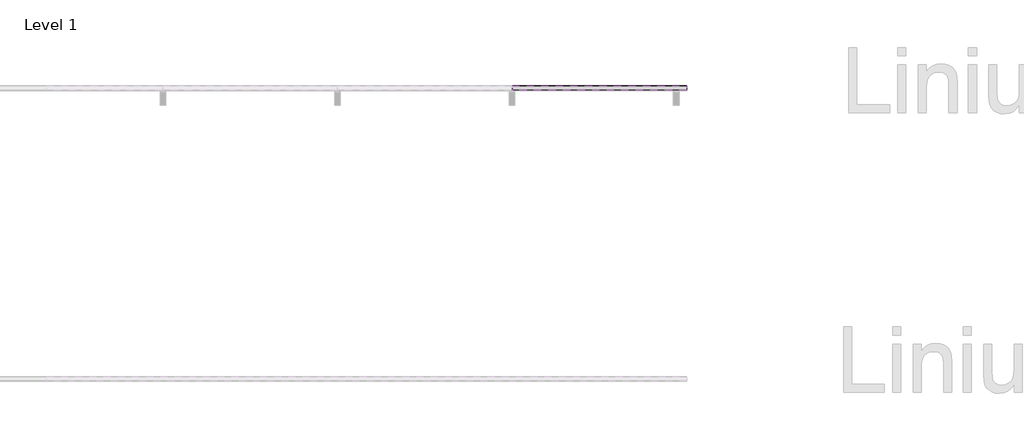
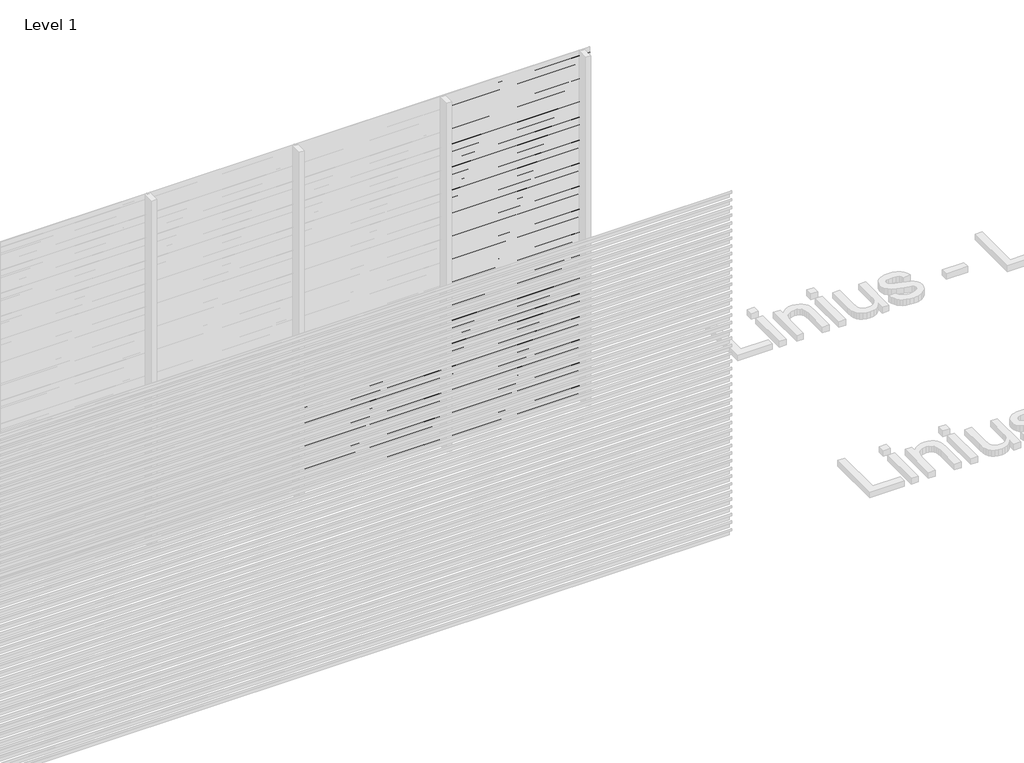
# One storey, part 65 of 540: 56 proxies.
"""IFC4 building model written with IfcOpenShell, lengths in millimetres."""

from ifc_helpers import new_model, si_unit, frame, origin, place, context, project, spatial, polyline, outline, extrude, element, save

model = new_model("IFC4")

# Units and contexts
model_context = context("Model", 3, world=origin())
ifc_project = project(units=[si_unit("LENGTHUNIT", "METRE", prefix="MILLI")], contexts=[model_context])

# Site, building, storey
site = spatial("IfcSite", under=ifc_project)
building = spatial("IfcBuilding", under=site)
storey = spatial("IfcBuildingStorey", under=building, Name="Level 1", Elevation=0.0)

# Proxies
placement = place(None, origin())
element("IfcBuildingElementProxy", 1, Name="Wall Sweeps", at=placement, inside=storey, context=model_context, shape_type="SweptSolid", body=[
    extrude(outline(polyline([(29014.0540136, 686.0), (29014.0540136, 653.0), (29012.8040136, 653.7216933), (29012.8040136, 685.2872415), (28983.0540136, 706.0588647), (28983.0540136, 726.0), (28984.3040136, 726.0), (28984.3040136, 706.7716232), (29014.0540136, 686.0)])), frame((48566.6208097, 0.0, 0.0), z_axis=(1.0, 0.0, 0.0), x_axis=(0.0, 1.0, 0.0)), (0.0, 0.0, 1.0), 1200.0),
])
element("IfcBuildingElementProxy", 2, Name="Wall Sweeps", at=placement, inside=storey, context=model_context, shape_type="SweptSolid", body=[
    extrude(outline(polyline([(29014.0540136, 620.0), (29014.0540136, 587.0), (29012.8040136, 587.7216933), (29012.8040136, 619.2872415), (28983.0540136, 640.0588647), (28983.0540136, 660.0), (28984.3040136, 660.0), (28984.3040136, 640.7716232), (29014.0540136, 620.0)])), frame((48566.6208097, 0.0, 0.0), z_axis=(1.0, 0.0, 0.0), x_axis=(0.0, 1.0, 0.0)), (0.0, 0.0, 1.0), 1200.0),
])
element("IfcBuildingElementProxy", 3, Name="Wall Sweeps", at=placement, inside=storey, context=model_context, shape_type="SweptSolid", body=[
    extrude(outline(polyline([(29014.0540136, 554.0), (29014.0540136, 521.0), (29012.8040136, 521.7216933), (29012.8040136, 553.2872415), (28983.0540136, 574.0588647), (28983.0540136, 594.0), (28984.3040136, 594.0), (28984.3040136, 574.7716232), (29014.0540136, 554.0)])), frame((48566.6208097, 0.0, 0.0), z_axis=(1.0, 0.0, 0.0), x_axis=(0.0, 1.0, 0.0)), (0.0, 0.0, 1.0), 1200.0),
])
element("IfcBuildingElementProxy", 4, Name="Wall Sweeps", at=placement, inside=storey, context=model_context, shape_type="SweptSolid", body=[
    extrude(outline(polyline([(29014.0540136, 488.0), (29014.0540136, 455.0), (29012.8040136, 455.7216933), (29012.8040136, 487.2872415), (28983.0540136, 508.0588647), (28983.0540136, 528.0), (28984.3040136, 528.0), (28984.3040136, 508.7716232), (29014.0540136, 488.0)])), frame((48566.6208097, 0.0, 0.0), z_axis=(1.0, 0.0, 0.0), x_axis=(0.0, 1.0, 0.0)), (0.0, 0.0, 1.0), 1200.0),
])
element("IfcBuildingElementProxy", 5, Name="Wall Sweeps", at=placement, inside=storey, context=model_context, shape_type="SweptSolid", body=[
    extrude(outline(polyline([(29014.0540136, 422.0), (29014.0540136, 389.0), (29012.8040136, 389.7216933), (29012.8040136, 421.2872415), (28983.0540136, 442.0588647), (28983.0540136, 462.0), (28984.3040136, 462.0), (28984.3040136, 442.7716232), (29014.0540136, 422.0)])), frame((48566.6208097, 0.0, 0.0), z_axis=(1.0, 0.0, 0.0), x_axis=(0.0, 1.0, 0.0)), (0.0, 0.0, 1.0), 1200.0),
])
element("IfcBuildingElementProxy", 6, Name="Wall Sweeps", at=placement, inside=storey, context=model_context, shape_type="SweptSolid", body=[
    extrude(outline(polyline([(29014.0540136, 356.0), (29014.0540136, 323.0), (29012.8040136, 323.7216933), (29012.8040136, 355.2872415), (28983.0540136, 376.0588647), (28983.0540136, 396.0), (28984.3040136, 396.0), (28984.3040136, 376.7716232), (29014.0540136, 356.0)])), frame((48566.6208097, 0.0, 0.0), z_axis=(1.0, 0.0, 0.0), x_axis=(0.0, 1.0, 0.0)), (0.0, 0.0, 1.0), 1200.0),
])
element("IfcBuildingElementProxy", 7, Name="Wall Sweeps", at=placement, inside=storey, context=model_context, shape_type="SweptSolid", body=[
    extrude(outline(polyline([(29014.0540136, 290.0), (29014.0540136, 257.0), (29012.8040136, 257.7216933), (29012.8040136, 289.2872415), (28983.0540136, 310.0588647), (28983.0540136, 330.0), (28984.3040136, 330.0), (28984.3040136, 310.7716232), (29014.0540136, 290.0)])), frame((48566.6208097, 0.0, 0.0), z_axis=(1.0, 0.0, 0.0), x_axis=(0.0, 1.0, 0.0)), (0.0, 0.0, 1.0), 1200.0),
])
element("IfcBuildingElementProxy", 8, Name="Wall Sweeps", at=placement, inside=storey, context=model_context, shape_type="SweptSolid", body=[
    extrude(outline(polyline([(29014.0540136, 224.0), (29014.0540136, 191.0), (29012.8040136, 191.7216933), (29012.8040136, 223.2872415), (28983.0540136, 244.0588647), (28983.0540136, 264.0), (28984.3040136, 264.0), (28984.3040136, 244.7716232), (29014.0540136, 224.0)])), frame((48566.6208097, 0.0, 0.0), z_axis=(1.0, 0.0, 0.0), x_axis=(0.0, 1.0, 0.0)), (0.0, 0.0, 1.0), 1200.0),
])
element("IfcBuildingElementProxy", 9, Name="Wall Sweeps", at=placement, inside=storey, context=model_context, shape_type="SweptSolid", body=[
    extrude(outline(polyline([(29014.0540136, 158.0), (29014.0540136, 125.0), (29012.8040136, 125.7216933), (29012.8040136, 157.2872415), (28983.0540136, 178.0588647), (28983.0540136, 198.0), (28984.3040136, 198.0), (28984.3040136, 178.7716232), (29014.0540136, 158.0)])), frame((48566.6208097, 0.0, 0.0), z_axis=(1.0, 0.0, 0.0), x_axis=(0.0, 1.0, 0.0)), (0.0, 0.0, 1.0), 1200.0),
])
element("IfcBuildingElementProxy", 10, Name="Wall Sweeps", at=placement, inside=storey, context=model_context, shape_type="SweptSolid", body=[
    extrude(outline(polyline([(29014.0540136, 92.0), (29014.0540136, 59.0), (29012.8040136, 59.7216933), (29012.8040136, 91.2872415), (28983.0540136, 112.0588647), (28983.0540136, 132.0), (28984.3040136, 132.0), (28984.3040136, 112.7716232), (29014.0540136, 92.0)])), frame((48566.6208097, 0.0, 0.0), z_axis=(1.0, 0.0, 0.0), x_axis=(0.0, 1.0, 0.0)), (0.0, 0.0, 1.0), 1200.0),
])
element("IfcBuildingElementProxy", 11, Name="Wall Sweeps", at=placement, inside=storey, context=model_context, shape_type="SweptSolid", body=[
    extrude(outline(polyline([(29014.0540136, 26.0), (29014.0540136, -7.0), (29012.8040136, -6.2783067), (29012.8040136, 25.2872415), (28983.0540136, 46.0588647), (28983.0540136, 66.0), (28984.3040136, 66.0), (28984.3040136, 46.7716232), (29014.0540136, 26.0)])), frame((48566.6208097, 0.0, 0.0), z_axis=(1.0, 0.0, 0.0), x_axis=(0.0, 1.0, 0.0)), (0.0, 0.0, 1.0), 1200.0),
])
element("IfcBuildingElementProxy", 12, Name="Wall Sweeps", at=placement, inside=storey, context=model_context, shape_type="SweptSolid", body=[
    extrude(outline(polyline([(29014.0540136, 2930.0), (29014.0540136, 2897.0), (29012.8040136, 2897.7216933), (29012.8040136, 2929.2872415), (28983.0540136, 2950.0588647), (28983.0540136, 2970.0), (28984.3040136, 2970.0), (28984.3040136, 2950.7716232), (29014.0540136, 2930.0)])), frame((49766.6208097, 0.0, 0.0), z_axis=(1.0, 0.0, 0.0), x_axis=(0.0, 1.0, 0.0)), (0.0, 0.0, 1.0), 1200.0),
])
element("IfcBuildingElementProxy", 13, Name="Wall Sweeps", at=placement, inside=storey, context=model_context, shape_type="SweptSolid", body=[
    extrude(outline(polyline([(29014.0540136, 2864.0), (29014.0540136, 2831.0), (29012.8040136, 2831.7216933), (29012.8040136, 2863.2872415), (28983.0540136, 2884.0588647), (28983.0540136, 2904.0), (28984.3040136, 2904.0), (28984.3040136, 2884.7716232), (29014.0540136, 2864.0)])), frame((49766.6208097, 0.0, 0.0), z_axis=(1.0, 0.0, 0.0), x_axis=(0.0, 1.0, 0.0)), (0.0, 0.0, 1.0), 1200.0),
])
element("IfcBuildingElementProxy", 14, Name="Wall Sweeps", at=placement, inside=storey, context=model_context, shape_type="SweptSolid", body=[
    extrude(outline(polyline([(29014.0540136, 2798.0), (29014.0540136, 2765.0), (29012.8040136, 2765.7216933), (29012.8040136, 2797.2872415), (28983.0540136, 2818.0588647), (28983.0540136, 2838.0), (28984.3040136, 2838.0), (28984.3040136, 2818.7716232), (29014.0540136, 2798.0)])), frame((49766.6208097, 0.0, 0.0), z_axis=(1.0, 0.0, 0.0), x_axis=(0.0, 1.0, 0.0)), (0.0, 0.0, 1.0), 1200.0),
])
element("IfcBuildingElementProxy", 15, Name="Wall Sweeps", at=placement, inside=storey, context=model_context, shape_type="SweptSolid", body=[
    extrude(outline(polyline([(29014.0540136, 2732.0), (29014.0540136, 2699.0), (29012.8040136, 2699.7216933), (29012.8040136, 2731.2872415), (28983.0540136, 2752.0588647), (28983.0540136, 2772.0), (28984.3040136, 2772.0), (28984.3040136, 2752.7716232), (29014.0540136, 2732.0)])), frame((49766.6208097, 0.0, 0.0), z_axis=(1.0, 0.0, 0.0), x_axis=(0.0, 1.0, 0.0)), (0.0, 0.0, 1.0), 1200.0),
])
element("IfcBuildingElementProxy", 16, Name="Wall Sweeps", at=placement, inside=storey, context=model_context, shape_type="SweptSolid", body=[
    extrude(outline(polyline([(29014.0540136, 2666.0), (29014.0540136, 2633.0), (29012.8040136, 2633.7216933), (29012.8040136, 2665.2872415), (28983.0540136, 2686.0588647), (28983.0540136, 2706.0), (28984.3040136, 2706.0), (28984.3040136, 2686.7716232), (29014.0540136, 2666.0)])), frame((49766.6208097, 0.0, 0.0), z_axis=(1.0, 0.0, 0.0), x_axis=(0.0, 1.0, 0.0)), (0.0, 0.0, 1.0), 1200.0),
])
element("IfcBuildingElementProxy", 17, Name="Wall Sweeps", at=placement, inside=storey, context=model_context, shape_type="SweptSolid", body=[
    extrude(outline(polyline([(29014.0540136, 2600.0), (29014.0540136, 2567.0), (29012.8040136, 2567.7216933), (29012.8040136, 2599.2872415), (28983.0540136, 2620.0588647), (28983.0540136, 2640.0), (28984.3040136, 2640.0), (28984.3040136, 2620.7716232), (29014.0540136, 2600.0)])), frame((49766.6208097, 0.0, 0.0), z_axis=(1.0, 0.0, 0.0), x_axis=(0.0, 1.0, 0.0)), (0.0, 0.0, 1.0), 1200.0),
])
element("IfcBuildingElementProxy", 18, Name="Wall Sweeps", at=placement, inside=storey, context=model_context, shape_type="SweptSolid", body=[
    extrude(outline(polyline([(29014.0540136, 2534.0), (29014.0540136, 2501.0), (29012.8040136, 2501.7216933), (29012.8040136, 2533.2872415), (28983.0540136, 2554.0588647), (28983.0540136, 2574.0), (28984.3040136, 2574.0), (28984.3040136, 2554.7716232), (29014.0540136, 2534.0)])), frame((49766.6208097, 0.0, 0.0), z_axis=(1.0, 0.0, 0.0), x_axis=(0.0, 1.0, 0.0)), (0.0, 0.0, 1.0), 1200.0),
])
element("IfcBuildingElementProxy", 19, Name="Wall Sweeps", at=placement, inside=storey, context=model_context, shape_type="SweptSolid", body=[
    extrude(outline(polyline([(29014.0540136, 2468.0), (29014.0540136, 2435.0), (29012.8040136, 2435.7216933), (29012.8040136, 2467.2872415), (28983.0540136, 2488.0588647), (28983.0540136, 2508.0), (28984.3040136, 2508.0), (28984.3040136, 2488.7716232), (29014.0540136, 2468.0)])), frame((49766.6208097, 0.0, 0.0), z_axis=(1.0, 0.0, 0.0), x_axis=(0.0, 1.0, 0.0)), (0.0, 0.0, 1.0), 1200.0),
])
element("IfcBuildingElementProxy", 20, Name="Wall Sweeps", at=placement, inside=storey, context=model_context, shape_type="SweptSolid", body=[
    extrude(outline(polyline([(29014.0540136, 2402.0), (29014.0540136, 2369.0), (29012.8040136, 2369.7216933), (29012.8040136, 2401.2872415), (28983.0540136, 2422.0588647), (28983.0540136, 2442.0), (28984.3040136, 2442.0), (28984.3040136, 2422.7716232), (29014.0540136, 2402.0)])), frame((49766.6208097, 0.0, 0.0), z_axis=(1.0, 0.0, 0.0), x_axis=(0.0, 1.0, 0.0)), (0.0, 0.0, 1.0), 1200.0),
])
element("IfcBuildingElementProxy", 21, Name="Wall Sweeps", at=placement, inside=storey, context=model_context, shape_type="SweptSolid", body=[
    extrude(outline(polyline([(29014.0540136, 2336.0), (29014.0540136, 2303.0), (29012.8040136, 2303.7216933), (29012.8040136, 2335.2872415), (28983.0540136, 2356.0588647), (28983.0540136, 2376.0), (28984.3040136, 2376.0), (28984.3040136, 2356.7716232), (29014.0540136, 2336.0)])), frame((49766.6208097, 0.0, 0.0), z_axis=(1.0, 0.0, 0.0), x_axis=(0.0, 1.0, 0.0)), (0.0, 0.0, 1.0), 1200.0),
])
element("IfcBuildingElementProxy", 22, Name="Wall Sweeps", at=placement, inside=storey, context=model_context, shape_type="SweptSolid", body=[
    extrude(outline(polyline([(29014.0540136, 2270.0), (29014.0540136, 2237.0), (29012.8040136, 2237.7216933), (29012.8040136, 2269.2872415), (28983.0540136, 2290.0588647), (28983.0540136, 2310.0), (28984.3040136, 2310.0), (28984.3040136, 2290.7716232), (29014.0540136, 2270.0)])), frame((49766.6208097, 0.0, 0.0), z_axis=(1.0, 0.0, 0.0), x_axis=(0.0, 1.0, 0.0)), (0.0, 0.0, 1.0), 1200.0),
])
element("IfcBuildingElementProxy", 23, Name="Wall Sweeps", at=placement, inside=storey, context=model_context, shape_type="SweptSolid", body=[
    extrude(outline(polyline([(29014.0540136, 2204.0), (29014.0540136, 2171.0), (29012.8040136, 2171.7216933), (29012.8040136, 2203.2872415), (28983.0540136, 2224.0588647), (28983.0540136, 2244.0), (28984.3040136, 2244.0), (28984.3040136, 2224.7716232), (29014.0540136, 2204.0)])), frame((49766.6208097, 0.0, 0.0), z_axis=(1.0, 0.0, 0.0), x_axis=(0.0, 1.0, 0.0)), (0.0, 0.0, 1.0), 1200.0),
])
element("IfcBuildingElementProxy", 24, Name="Wall Sweeps", at=placement, inside=storey, context=model_context, shape_type="SweptSolid", body=[
    extrude(outline(polyline([(29014.0540136, 2138.0), (29014.0540136, 2105.0), (29012.8040136, 2105.7216933), (29012.8040136, 2137.2872415), (28983.0540136, 2158.0588647), (28983.0540136, 2178.0), (28984.3040136, 2178.0), (28984.3040136, 2158.7716232), (29014.0540136, 2138.0)])), frame((49766.6208097, 0.0, 0.0), z_axis=(1.0, 0.0, 0.0), x_axis=(0.0, 1.0, 0.0)), (0.0, 0.0, 1.0), 1200.0),
])
element("IfcBuildingElementProxy", 25, Name="Wall Sweeps", at=placement, inside=storey, context=model_context, shape_type="SweptSolid", body=[
    extrude(outline(polyline([(29014.0540136, 2072.0), (29014.0540136, 2039.0), (29012.8040136, 2039.7216933), (29012.8040136, 2071.2872415), (28983.0540136, 2092.0588647), (28983.0540136, 2112.0), (28984.3040136, 2112.0), (28984.3040136, 2092.7716232), (29014.0540136, 2072.0)])), frame((49766.6208097, 0.0, 0.0), z_axis=(1.0, 0.0, 0.0), x_axis=(0.0, 1.0, 0.0)), (0.0, 0.0, 1.0), 1200.0),
])
element("IfcBuildingElementProxy", 26, Name="Wall Sweeps", at=placement, inside=storey, context=model_context, shape_type="SweptSolid", body=[
    extrude(outline(polyline([(29014.0540136, 2006.0), (29014.0540136, 1973.0), (29012.8040136, 1973.7216933), (29012.8040136, 2005.2872415), (28983.0540136, 2026.0588647), (28983.0540136, 2046.0), (28984.3040136, 2046.0), (28984.3040136, 2026.7716232), (29014.0540136, 2006.0)])), frame((49766.6208097, 0.0, 0.0), z_axis=(1.0, 0.0, 0.0), x_axis=(0.0, 1.0, 0.0)), (0.0, 0.0, 1.0), 1200.0),
])
element("IfcBuildingElementProxy", 27, Name="Wall Sweeps", at=placement, inside=storey, context=model_context, shape_type="SweptSolid", body=[
    extrude(outline(polyline([(29014.0540136, 1940.0), (29014.0540136, 1907.0), (29012.8040136, 1907.7216933), (29012.8040136, 1939.2872415), (28983.0540136, 1960.0588647), (28983.0540136, 1980.0), (28984.3040136, 1980.0), (28984.3040136, 1960.7716232), (29014.0540136, 1940.0)])), frame((49766.6208097, 0.0, 0.0), z_axis=(1.0, 0.0, 0.0), x_axis=(0.0, 1.0, 0.0)), (0.0, 0.0, 1.0), 1200.0),
])
element("IfcBuildingElementProxy", 28, Name="Wall Sweeps", at=placement, inside=storey, context=model_context, shape_type="SweptSolid", body=[
    extrude(outline(polyline([(29014.0540136, 1874.0), (29014.0540136, 1841.0), (29012.8040136, 1841.7216933), (29012.8040136, 1873.2872415), (28983.0540136, 1894.0588647), (28983.0540136, 1914.0), (28984.3040136, 1914.0), (28984.3040136, 1894.7716232), (29014.0540136, 1874.0)])), frame((49766.6208097, 0.0, 0.0), z_axis=(1.0, 0.0, 0.0), x_axis=(0.0, 1.0, 0.0)), (0.0, 0.0, 1.0), 1200.0),
])
element("IfcBuildingElementProxy", 29, Name="Wall Sweeps", at=placement, inside=storey, context=model_context, shape_type="SweptSolid", body=[
    extrude(outline(polyline([(29014.0540136, 1808.0), (29014.0540136, 1775.0), (29012.8040136, 1775.7216933), (29012.8040136, 1807.2872415), (28983.0540136, 1828.0588647), (28983.0540136, 1848.0), (28984.3040136, 1848.0), (28984.3040136, 1828.7716232), (29014.0540136, 1808.0)])), frame((49766.6208097, 0.0, 0.0), z_axis=(1.0, 0.0, 0.0), x_axis=(0.0, 1.0, 0.0)), (0.0, 0.0, 1.0), 1200.0),
])
element("IfcBuildingElementProxy", 30, Name="Wall Sweeps", at=placement, inside=storey, context=model_context, shape_type="SweptSolid", body=[
    extrude(outline(polyline([(29014.0540136, 1742.0), (29014.0540136, 1709.0), (29012.8040136, 1709.7216933), (29012.8040136, 1741.2872415), (28983.0540136, 1762.0588647), (28983.0540136, 1782.0), (28984.3040136, 1782.0), (28984.3040136, 1762.7716232), (29014.0540136, 1742.0)])), frame((49766.6208097, 0.0, 0.0), z_axis=(1.0, 0.0, 0.0), x_axis=(0.0, 1.0, 0.0)), (0.0, 0.0, 1.0), 1200.0),
])
element("IfcBuildingElementProxy", 31, Name="Wall Sweeps", at=placement, inside=storey, context=model_context, shape_type="SweptSolid", body=[
    extrude(outline(polyline([(29014.0540136, 1676.0), (29014.0540136, 1643.0), (29012.8040136, 1643.7216933), (29012.8040136, 1675.2872415), (28983.0540136, 1696.0588647), (28983.0540136, 1716.0), (28984.3040136, 1716.0), (28984.3040136, 1696.7716232), (29014.0540136, 1676.0)])), frame((49766.6208097, 0.0, 0.0), z_axis=(1.0, 0.0, 0.0), x_axis=(0.0, 1.0, 0.0)), (0.0, 0.0, 1.0), 1200.0),
])
element("IfcBuildingElementProxy", 32, Name="Wall Sweeps", at=placement, inside=storey, context=model_context, shape_type="SweptSolid", body=[
    extrude(outline(polyline([(29014.0540136, 1610.0), (29014.0540136, 1577.0), (29012.8040136, 1577.7216933), (29012.8040136, 1609.2872415), (28983.0540136, 1630.0588647), (28983.0540136, 1650.0), (28984.3040136, 1650.0), (28984.3040136, 1630.7716232), (29014.0540136, 1610.0)])), frame((49766.6208097, 0.0, 0.0), z_axis=(1.0, 0.0, 0.0), x_axis=(0.0, 1.0, 0.0)), (0.0, 0.0, 1.0), 1200.0),
])
element("IfcBuildingElementProxy", 33, Name="Wall Sweeps", at=placement, inside=storey, context=model_context, shape_type="SweptSolid", body=[
    extrude(outline(polyline([(29014.0540136, 1544.0), (29014.0540136, 1511.0), (29012.8040136, 1511.7216933), (29012.8040136, 1543.2872415), (28983.0540136, 1564.0588647), (28983.0540136, 1584.0), (28984.3040136, 1584.0), (28984.3040136, 1564.7716232), (29014.0540136, 1544.0)])), frame((49766.6208097, 0.0, 0.0), z_axis=(1.0, 0.0, 0.0), x_axis=(0.0, 1.0, 0.0)), (0.0, 0.0, 1.0), 1200.0),
])
element("IfcBuildingElementProxy", 34, Name="Wall Sweeps", at=placement, inside=storey, context=model_context, shape_type="SweptSolid", body=[
    extrude(outline(polyline([(29014.0540136, 1478.0), (29014.0540136, 1445.0), (29012.8040136, 1445.7216933), (29012.8040136, 1477.2872415), (28983.0540136, 1498.0588647), (28983.0540136, 1518.0), (28984.3040136, 1518.0), (28984.3040136, 1498.7716232), (29014.0540136, 1478.0)])), frame((49766.6208097, 0.0, 0.0), z_axis=(1.0, 0.0, 0.0), x_axis=(0.0, 1.0, 0.0)), (0.0, 0.0, 1.0), 1200.0),
])
element("IfcBuildingElementProxy", 35, Name="Wall Sweeps", at=placement, inside=storey, context=model_context, shape_type="SweptSolid", body=[
    extrude(outline(polyline([(29014.0540136, 1412.0), (29014.0540136, 1379.0), (29012.8040136, 1379.7216933), (29012.8040136, 1411.2872415), (28983.0540136, 1432.0588647), (28983.0540136, 1452.0), (28984.3040136, 1452.0), (28984.3040136, 1432.7716232), (29014.0540136, 1412.0)])), frame((49766.6208097, 0.0, 0.0), z_axis=(1.0, 0.0, 0.0), x_axis=(0.0, 1.0, 0.0)), (0.0, 0.0, 1.0), 1200.0),
])
element("IfcBuildingElementProxy", 36, Name="Wall Sweeps", at=placement, inside=storey, context=model_context, shape_type="SweptSolid", body=[
    extrude(outline(polyline([(29014.0540136, 1346.0), (29014.0540136, 1313.0), (29012.8040136, 1313.7216933), (29012.8040136, 1345.2872415), (28983.0540136, 1366.0588647), (28983.0540136, 1386.0), (28984.3040136, 1386.0), (28984.3040136, 1366.7716232), (29014.0540136, 1346.0)])), frame((49766.6208097, 0.0, 0.0), z_axis=(1.0, 0.0, 0.0), x_axis=(0.0, 1.0, 0.0)), (0.0, 0.0, 1.0), 1200.0),
])
element("IfcBuildingElementProxy", 37, Name="Wall Sweeps", at=placement, inside=storey, context=model_context, shape_type="SweptSolid", body=[
    extrude(outline(polyline([(29014.0540136, 1280.0), (29014.0540136, 1247.0), (29012.8040136, 1247.7216933), (29012.8040136, 1279.2872415), (28983.0540136, 1300.0588647), (28983.0540136, 1320.0), (28984.3040136, 1320.0), (28984.3040136, 1300.7716232), (29014.0540136, 1280.0)])), frame((49766.6208097, 0.0, 0.0), z_axis=(1.0, 0.0, 0.0), x_axis=(0.0, 1.0, 0.0)), (0.0, 0.0, 1.0), 1200.0),
])
element("IfcBuildingElementProxy", 38, Name="Wall Sweeps", at=placement, inside=storey, context=model_context, shape_type="SweptSolid", body=[
    extrude(outline(polyline([(29014.0540136, 1214.0), (29014.0540136, 1181.0), (29012.8040136, 1181.7216933), (29012.8040136, 1213.2872415), (28983.0540136, 1234.0588647), (28983.0540136, 1254.0), (28984.3040136, 1254.0), (28984.3040136, 1234.7716232), (29014.0540136, 1214.0)])), frame((49766.6208097, 0.0, 0.0), z_axis=(1.0, 0.0, 0.0), x_axis=(0.0, 1.0, 0.0)), (0.0, 0.0, 1.0), 1200.0),
])
element("IfcBuildingElementProxy", 39, Name="Wall Sweeps", at=placement, inside=storey, context=model_context, shape_type="SweptSolid", body=[
    extrude(outline(polyline([(29014.0540136, 1148.0), (29014.0540136, 1115.0), (29012.8040136, 1115.7216933), (29012.8040136, 1147.2872415), (28983.0540136, 1168.0588647), (28983.0540136, 1188.0), (28984.3040136, 1188.0), (28984.3040136, 1168.7716232), (29014.0540136, 1148.0)])), frame((49766.6208097, 0.0, 0.0), z_axis=(1.0, 0.0, 0.0), x_axis=(0.0, 1.0, 0.0)), (0.0, 0.0, 1.0), 1200.0),
])
element("IfcBuildingElementProxy", 40, Name="Wall Sweeps", at=placement, inside=storey, context=model_context, shape_type="SweptSolid", body=[
    extrude(outline(polyline([(29014.0540136, 1082.0), (29014.0540136, 1049.0), (29012.8040136, 1049.7216933), (29012.8040136, 1081.2872415), (28983.0540136, 1102.0588647), (28983.0540136, 1122.0), (28984.3040136, 1122.0), (28984.3040136, 1102.7716232), (29014.0540136, 1082.0)])), frame((49766.6208097, 0.0, 0.0), z_axis=(1.0, 0.0, 0.0), x_axis=(0.0, 1.0, 0.0)), (0.0, 0.0, 1.0), 1200.0),
])
element("IfcBuildingElementProxy", 41, Name="Wall Sweeps", at=placement, inside=storey, context=model_context, shape_type="SweptSolid", body=[
    extrude(outline(polyline([(29014.0540136, 1016.0), (29014.0540136, 983.0), (29012.8040136, 983.7216933), (29012.8040136, 1015.2872415), (28983.0540136, 1036.0588647), (28983.0540136, 1056.0), (28984.3040136, 1056.0), (28984.3040136, 1036.7716232), (29014.0540136, 1016.0)])), frame((49766.6208097, 0.0, 0.0), z_axis=(1.0, 0.0, 0.0), x_axis=(0.0, 1.0, 0.0)), (0.0, 0.0, 1.0), 1200.0),
])
element("IfcBuildingElementProxy", 42, Name="Wall Sweeps", at=placement, inside=storey, context=model_context, shape_type="SweptSolid", body=[
    extrude(outline(polyline([(29014.0540136, 950.0), (29014.0540136, 917.0), (29012.8040136, 917.7216933), (29012.8040136, 949.2872415), (28983.0540136, 970.0588647), (28983.0540136, 990.0), (28984.3040136, 990.0), (28984.3040136, 970.7716232), (29014.0540136, 950.0)])), frame((49766.6208097, 0.0, 0.0), z_axis=(1.0, 0.0, 0.0), x_axis=(0.0, 1.0, 0.0)), (0.0, 0.0, 1.0), 1200.0),
])
element("IfcBuildingElementProxy", 43, Name="Wall Sweeps", at=placement, inside=storey, context=model_context, shape_type="SweptSolid", body=[
    extrude(outline(polyline([(29014.0540136, 884.0), (29014.0540136, 851.0), (29012.8040136, 851.7216933), (29012.8040136, 883.2872415), (28983.0540136, 904.0588647), (28983.0540136, 924.0), (28984.3040136, 924.0), (28984.3040136, 904.7716232), (29014.0540136, 884.0)])), frame((49766.6208097, 0.0, 0.0), z_axis=(1.0, 0.0, 0.0), x_axis=(0.0, 1.0, 0.0)), (0.0, 0.0, 1.0), 1200.0),
])
element("IfcBuildingElementProxy", 44, Name="Wall Sweeps", at=placement, inside=storey, context=model_context, shape_type="SweptSolid", body=[
    extrude(outline(polyline([(29014.0540136, 818.0), (29014.0540136, 785.0), (29012.8040136, 785.7216933), (29012.8040136, 817.2872415), (28983.0540136, 838.0588647), (28983.0540136, 858.0), (28984.3040136, 858.0), (28984.3040136, 838.7716232), (29014.0540136, 818.0)])), frame((49766.6208097, 0.0, 0.0), z_axis=(1.0, 0.0, 0.0), x_axis=(0.0, 1.0, 0.0)), (0.0, 0.0, 1.0), 1200.0),
])
element("IfcBuildingElementProxy", 45, Name="Wall Sweeps", at=placement, inside=storey, context=model_context, shape_type="SweptSolid", body=[
    extrude(outline(polyline([(29014.0540136, 752.0), (29014.0540136, 719.0), (29012.8040136, 719.7216933), (29012.8040136, 751.2872415), (28983.0540136, 772.0588647), (28983.0540136, 792.0), (28984.3040136, 792.0), (28984.3040136, 772.7716232), (29014.0540136, 752.0)])), frame((49766.6208097, 0.0, 0.0), z_axis=(1.0, 0.0, 0.0), x_axis=(0.0, 1.0, 0.0)), (0.0, 0.0, 1.0), 1200.0),
])
element("IfcBuildingElementProxy", 46, Name="Wall Sweeps", at=placement, inside=storey, context=model_context, shape_type="SweptSolid", body=[
    extrude(outline(polyline([(29014.0540136, 686.0), (29014.0540136, 653.0), (29012.8040136, 653.7216933), (29012.8040136, 685.2872415), (28983.0540136, 706.0588647), (28983.0540136, 726.0), (28984.3040136, 726.0), (28984.3040136, 706.7716232), (29014.0540136, 686.0)])), frame((49766.6208097, 0.0, 0.0), z_axis=(1.0, 0.0, 0.0), x_axis=(0.0, 1.0, 0.0)), (0.0, 0.0, 1.0), 1200.0),
])
element("IfcBuildingElementProxy", 47, Name="Wall Sweeps", at=placement, inside=storey, context=model_context, shape_type="SweptSolid", body=[
    extrude(outline(polyline([(29014.0540136, 620.0), (29014.0540136, 587.0), (29012.8040136, 587.7216933), (29012.8040136, 619.2872415), (28983.0540136, 640.0588647), (28983.0540136, 660.0), (28984.3040136, 660.0), (28984.3040136, 640.7716232), (29014.0540136, 620.0)])), frame((49766.6208097, 0.0, 0.0), z_axis=(1.0, 0.0, 0.0), x_axis=(0.0, 1.0, 0.0)), (0.0, 0.0, 1.0), 1200.0),
])
element("IfcBuildingElementProxy", 48, Name="Wall Sweeps", at=placement, inside=storey, context=model_context, shape_type="SweptSolid", body=[
    extrude(outline(polyline([(29014.0540136, 554.0), (29014.0540136, 521.0), (29012.8040136, 521.7216933), (29012.8040136, 553.2872415), (28983.0540136, 574.0588647), (28983.0540136, 594.0), (28984.3040136, 594.0), (28984.3040136, 574.7716232), (29014.0540136, 554.0)])), frame((49766.6208097, 0.0, 0.0), z_axis=(1.0, 0.0, 0.0), x_axis=(0.0, 1.0, 0.0)), (0.0, 0.0, 1.0), 1200.0),
])
element("IfcBuildingElementProxy", 49, Name="Wall Sweeps", at=placement, inside=storey, context=model_context, shape_type="SweptSolid", body=[
    extrude(outline(polyline([(29014.0540136, 488.0), (29014.0540136, 455.0), (29012.8040136, 455.7216933), (29012.8040136, 487.2872415), (28983.0540136, 508.0588647), (28983.0540136, 528.0), (28984.3040136, 528.0), (28984.3040136, 508.7716232), (29014.0540136, 488.0)])), frame((49766.6208097, 0.0, 0.0), z_axis=(1.0, 0.0, 0.0), x_axis=(0.0, 1.0, 0.0)), (0.0, 0.0, 1.0), 1200.0),
])
element("IfcBuildingElementProxy", 50, Name="Wall Sweeps", at=placement, inside=storey, context=model_context, shape_type="SweptSolid", body=[
    extrude(outline(polyline([(29014.0540136, 422.0), (29014.0540136, 389.0), (29012.8040136, 389.7216933), (29012.8040136, 421.2872415), (28983.0540136, 442.0588647), (28983.0540136, 462.0), (28984.3040136, 462.0), (28984.3040136, 442.7716232), (29014.0540136, 422.0)])), frame((49766.6208097, 0.0, 0.0), z_axis=(1.0, 0.0, 0.0), x_axis=(0.0, 1.0, 0.0)), (0.0, 0.0, 1.0), 1200.0),
])
element("IfcBuildingElementProxy", 51, Name="Wall Sweeps", at=placement, inside=storey, context=model_context, shape_type="SweptSolid", body=[
    extrude(outline(polyline([(29014.0540136, 356.0), (29014.0540136, 323.0), (29012.8040136, 323.7216933), (29012.8040136, 355.2872415), (28983.0540136, 376.0588647), (28983.0540136, 396.0), (28984.3040136, 396.0), (28984.3040136, 376.7716232), (29014.0540136, 356.0)])), frame((49766.6208097, 0.0, 0.0), z_axis=(1.0, 0.0, 0.0), x_axis=(0.0, 1.0, 0.0)), (0.0, 0.0, 1.0), 1200.0),
])
element("IfcBuildingElementProxy", 52, Name="Wall Sweeps", at=placement, inside=storey, context=model_context, shape_type="SweptSolid", body=[
    extrude(outline(polyline([(29014.0540136, 290.0), (29014.0540136, 257.0), (29012.8040136, 257.7216933), (29012.8040136, 289.2872415), (28983.0540136, 310.0588647), (28983.0540136, 330.0), (28984.3040136, 330.0), (28984.3040136, 310.7716232), (29014.0540136, 290.0)])), frame((49766.6208097, 0.0, 0.0), z_axis=(1.0, 0.0, 0.0), x_axis=(0.0, 1.0, 0.0)), (0.0, 0.0, 1.0), 1200.0),
])
element("IfcBuildingElementProxy", 53, Name="Wall Sweeps", at=placement, inside=storey, context=model_context, shape_type="SweptSolid", body=[
    extrude(outline(polyline([(29014.0540136, 224.0), (29014.0540136, 191.0), (29012.8040136, 191.7216933), (29012.8040136, 223.2872415), (28983.0540136, 244.0588647), (28983.0540136, 264.0), (28984.3040136, 264.0), (28984.3040136, 244.7716232), (29014.0540136, 224.0)])), frame((49766.6208097, 0.0, 0.0), z_axis=(1.0, 0.0, 0.0), x_axis=(0.0, 1.0, 0.0)), (0.0, 0.0, 1.0), 1200.0),
])
element("IfcBuildingElementProxy", 54, Name="Wall Sweeps", at=placement, inside=storey, context=model_context, shape_type="SweptSolid", body=[
    extrude(outline(polyline([(29014.0540136, 158.0), (29014.0540136, 125.0), (29012.8040136, 125.7216933), (29012.8040136, 157.2872415), (28983.0540136, 178.0588647), (28983.0540136, 198.0), (28984.3040136, 198.0), (28984.3040136, 178.7716232), (29014.0540136, 158.0)])), frame((49766.6208097, 0.0, 0.0), z_axis=(1.0, 0.0, 0.0), x_axis=(0.0, 1.0, 0.0)), (0.0, 0.0, 1.0), 1200.0),
])
element("IfcBuildingElementProxy", 55, Name="Wall Sweeps", at=placement, inside=storey, context=model_context, shape_type="SweptSolid", body=[
    extrude(outline(polyline([(29014.0540136, 92.0), (29014.0540136, 59.0), (29012.8040136, 59.7216933), (29012.8040136, 91.2872415), (28983.0540136, 112.0588647), (28983.0540136, 132.0), (28984.3040136, 132.0), (28984.3040136, 112.7716232), (29014.0540136, 92.0)])), frame((49766.6208097, 0.0, 0.0), z_axis=(1.0, 0.0, 0.0), x_axis=(0.0, 1.0, 0.0)), (0.0, 0.0, 1.0), 1200.0),
])
element("IfcBuildingElementProxy", 56, Name="Wall Sweeps", at=placement, inside=storey, context=model_context, shape_type="SweptSolid", body=[
    extrude(outline(polyline([(29014.0540136, 26.0), (29014.0540136, -7.0), (29012.8040136, -6.2783067), (29012.8040136, 25.2872415), (28983.0540136, 46.0588647), (28983.0540136, 66.0), (28984.3040136, 66.0), (28984.3040136, 46.7716232), (29014.0540136, 26.0)])), frame((49766.6208097, 0.0, 0.0), z_axis=(1.0, 0.0, 0.0), x_axis=(0.0, 1.0, 0.0)), (0.0, 0.0, 1.0), 1200.0),
])

save(model, "model.ifc")
